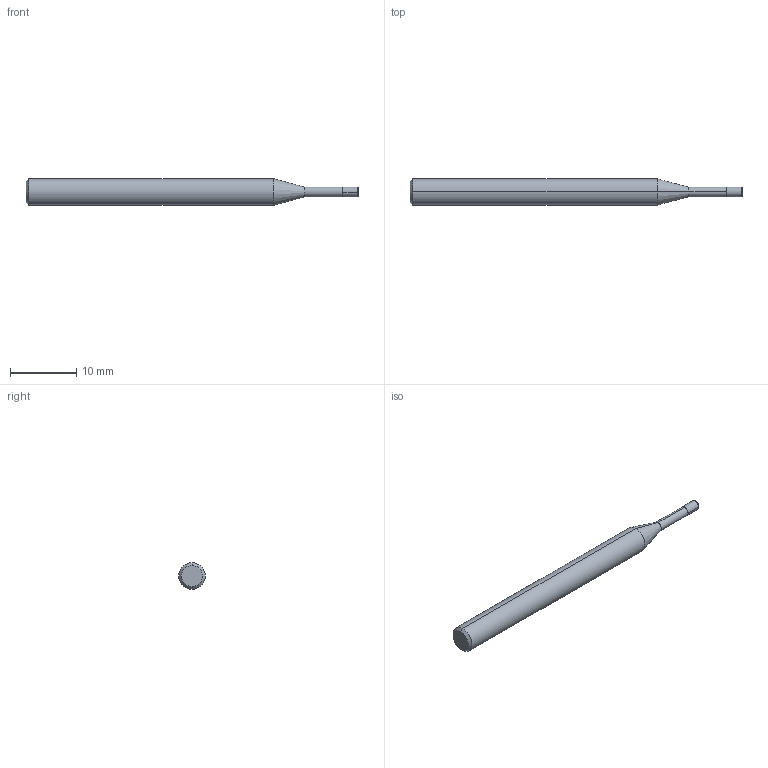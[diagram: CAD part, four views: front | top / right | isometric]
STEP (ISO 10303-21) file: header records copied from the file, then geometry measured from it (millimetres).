
FILE_DESCRIPTION (( 'STEP AP214' ), '1' );
FILE_NAME ('SEME6101500508E.STEP', '2018-03-29T23:56:04', ( '' ), ( '' ), 'SwSTEP 2.0', 'SolidWorks 2014', '' );
FILE_SCHEMA (( 'AUTOMOTIVE_DESIGN' ));
Length unit declared in the file: millimetre
Products named in the file (1): SEME6101500508E
Bounding box: 50 x 4 x 4 mm (x, y, z)
Volume: 510.3 mm3; surface area: 561.5 mm2
Topology: 2 solids, 2 shells, 16 faces, 28 edges, 16 vertices
Faces by surface type: cylinder 6, cone 4, plane 4, torus 2
Entity records: 429 total; most frequent: DIRECTION 80, CARTESIAN_POINT 61, ORIENTED_EDGE 56, AXIS2_PLACEMENT_3D 35, EDGE_CURVE 28, CIRCLE 18, EDGE_LOOP 16, ADVANCED_FACE 16
